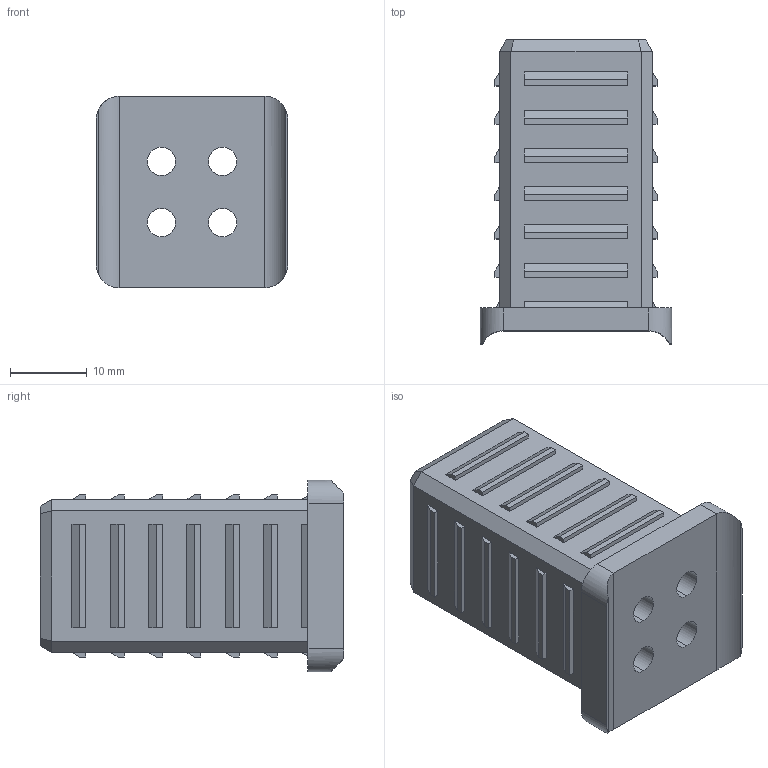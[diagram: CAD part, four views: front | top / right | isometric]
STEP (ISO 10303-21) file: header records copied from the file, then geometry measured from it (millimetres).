
FILE_DESCRIPTION (( 'STEP AP203' ), '1' );
FILE_NAME ('013.025.105.STEP', '2020-09-18T14:48:18', ( '' ), ( '' ), 'SwSTEP 2.0', 'SolidWorks 2018', '' );
FILE_SCHEMA (( 'CONFIG_CONTROL_DESIGN' ));
Length unit declared in the file: millimetre
Products named in the file (1): 013.025.105
Bounding box: 25 x 39.7 x 25 mm (x, y, z)
Volume: 8456 mm3; surface area: 7367.7 mm2
Topology: 1 solids, 1 shells, 229 faces, 592 edges, 392 vertices
Faces by surface type: plane 195, cylinder 34
Entity records: 7023 total; most frequent: CARTESIAN_POINT 1262, ORIENTED_EDGE 1184, DIRECTION 1116, EDGE_CURVE 592, LINE 520, VECTOR 520, VERTEX_POINT 392, AXIS2_PLACEMENT_3D 298
